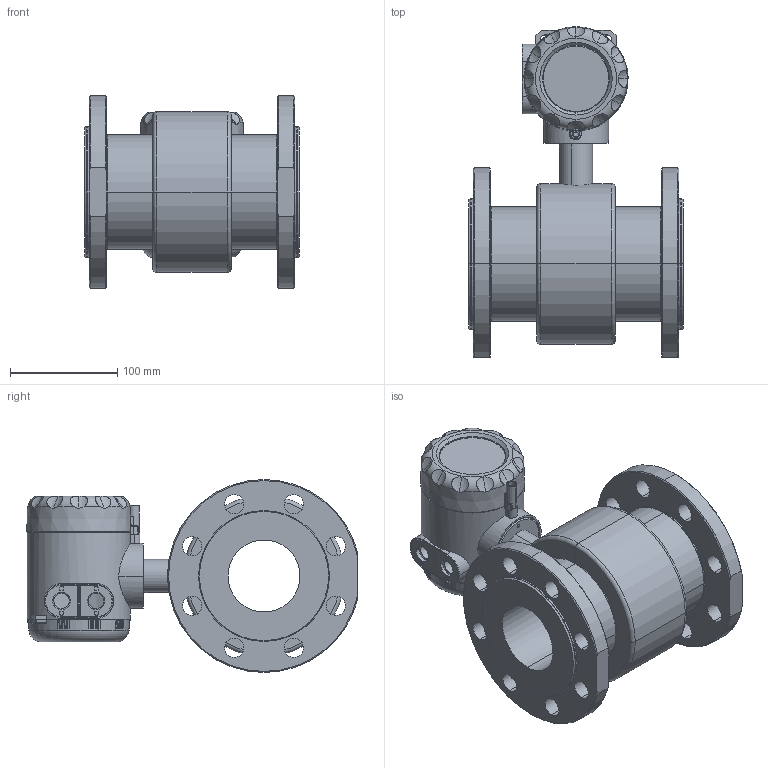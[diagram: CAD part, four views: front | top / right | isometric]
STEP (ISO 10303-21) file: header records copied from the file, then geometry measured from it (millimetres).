
FILE_DESCRIPTION (( 'STEP AP214' ), '1' );
FILE_NAME ('ﾏ頸褞ⅴ ﾏﾐﾎ65.STEP', '2021-07-23T12:48:22', ( '' ), ( '' ), 'SwSTEP 2.0', 'SolidWorks 2016', '' );
FILE_SCHEMA (( 'AUTOMOTIVE_DESIGN' ));
Length unit declared in the file: millimetre
Products named in the file (1): ﾏ頸褞ⅴ ﾏﾐﾎ65
Bounding box: 200 x 308.34 x 180 mm (x, y, z)
Surface area: 311807.1 mm2 (no closed solid volume)
Topology: 0 solids, 17 shells, 464 faces, 1574 edges, 1076 vertices
Faces by surface type: plane 156, cone 123, cylinder 120, torus 55, bspline 7, sphere 3
Entity records: 24447 total; most frequent: CARTESIAN_POINT 5727, DIRECTION 2964, ORIENTED_EDGE 2593, EDGE_CURVE 1571, AXIS2_PLACEMENT_3D 1142, VERTEX_POINT 1076, CIRCLE 684, LINE 680
